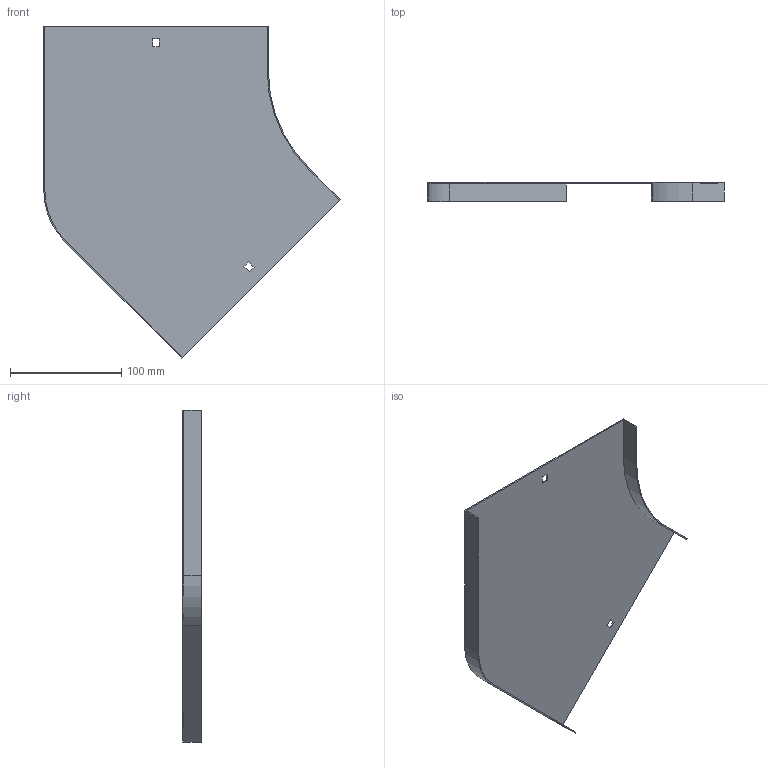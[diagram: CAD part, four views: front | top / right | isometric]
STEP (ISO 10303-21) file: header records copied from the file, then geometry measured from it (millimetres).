
FILE_DESCRIPTION (( 'STEP AP214' ), '1' );
FILE_NAME ('OP4_200.step', '2025-07-16T09:14:17', ( '' ), ( '' ), 'SwSTEP 2.0', 'SolidWorks 2023', '' );
FILE_SCHEMA (( 'AUTOMOTIVE_DESIGN' ));
Length unit declared in the file: millimetre
Products named in the file (1): OP4_200
Bounding box: 266.6 x 17 x 298.8 mm (x, y, z)
Volume: 62367.7 mm3; surface area: 125780 mm2
Topology: 1 solids, 1 shells, 26 faces, 72 edges, 48 vertices
Faces by surface type: plane 22, cylinder 4
Entity records: 855 total; most frequent: CARTESIAN_POINT 147, ORIENTED_EDGE 144, DIRECTION 134, EDGE_CURVE 72, VECTOR 64, LINE 64, VERTEX_POINT 48, AXIS2_PLACEMENT_3D 35
